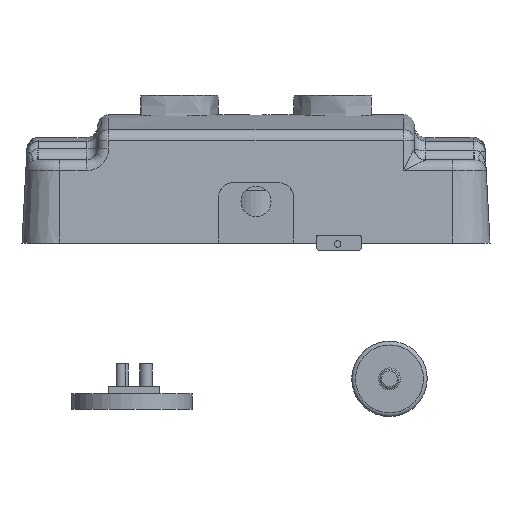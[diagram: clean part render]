
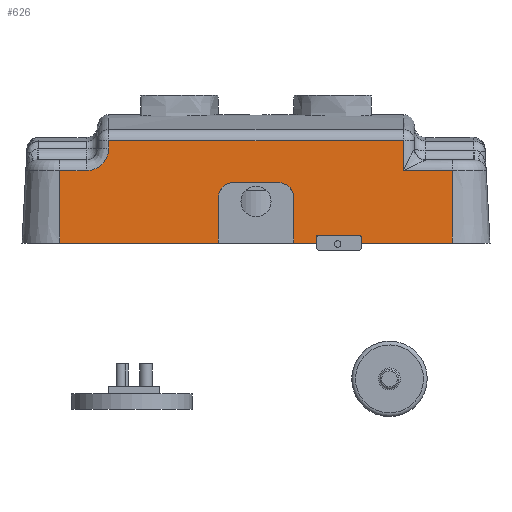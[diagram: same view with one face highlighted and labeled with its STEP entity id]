
A CAD part, front view. The second image highlights one B-rep face of the part: STEP entity #626.
In plain terms, the highlighted planar face has unit normal (0, -0.999, 0.052).
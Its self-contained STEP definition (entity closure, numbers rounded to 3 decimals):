
#308=ELLIPSE('',#5469,3.004,3.);
#309=ELLIPSE('',#5470,2.003,2.);
#310=ELLIPSE('',#5471,2.003,2.);
#311=ELLIPSE('',#5472,0.2,0.2);
#312=ELLIPSE('',#5473,0.2,0.2);
#626=ADVANCED_FACE('',(#1107),#939,.T.);
#939=PLANE('',#5474);
#1107=FACE_OUTER_BOUND('',#1384,.T.);
#1384=EDGE_LOOP('',(#2148,#2149,#2150,#2151,#2152,#2153,#2154,#2155,#2156,
#2157,#2158,#2159,#2160,#2161,#2162,#2163,#2164,#2165,#2166,#2167,#2168));
#2148=ORIENTED_EDGE('',*,*,#4005,.T.);
#2149=ORIENTED_EDGE('',*,*,#4006,.T.);
#2150=ORIENTED_EDGE('',*,*,#4007,.T.);
#2151=ORIENTED_EDGE('',*,*,#4008,.T.);
#2152=ORIENTED_EDGE('',*,*,#4009,.F.);
#2153=ORIENTED_EDGE('',*,*,#4010,.T.);
#2154=ORIENTED_EDGE('',*,*,#4011,.T.);
#2155=ORIENTED_EDGE('',*,*,#3884,.F.);
#2156=ORIENTED_EDGE('',*,*,#4012,.F.);
#2157=ORIENTED_EDGE('',*,*,#4013,.T.);
#2158=ORIENTED_EDGE('',*,*,#4014,.F.);
#2159=ORIENTED_EDGE('',*,*,#4015,.T.);
#2160=ORIENTED_EDGE('',*,*,#4016,.F.);
#2161=ORIENTED_EDGE('',*,*,#3880,.F.);
#2162=ORIENTED_EDGE('',*,*,#4017,.T.);
#2163=ORIENTED_EDGE('',*,*,#4018,.T.);
#2164=ORIENTED_EDGE('',*,*,#4019,.F.);
#2165=ORIENTED_EDGE('',*,*,#4020,.T.);
#2166=ORIENTED_EDGE('',*,*,#4021,.T.);
#2167=ORIENTED_EDGE('',*,*,#3896,.F.);
#2168=ORIENTED_EDGE('',*,*,#4022,.T.);
#3415=VERTEX_POINT('',#7562);
#3416=VERTEX_POINT('',#7564);
#3419=VERTEX_POINT('',#7570);
#3420=VERTEX_POINT('',#7572);
#3431=VERTEX_POINT('',#7594);
#3432=VERTEX_POINT('',#7596);
#3522=VERTEX_POINT('',#7814);
#3523=VERTEX_POINT('',#7815);
#3524=VERTEX_POINT('',#7817);
#3525=VERTEX_POINT('',#7819);
#3526=VERTEX_POINT('',#7821);
#3527=VERTEX_POINT('',#7823);
#3528=VERTEX_POINT('',#7825);
#3529=VERTEX_POINT('',#7828);
#3530=VERTEX_POINT('',#7830);
#3531=VERTEX_POINT('',#7832);
#3532=VERTEX_POINT('',#7834);
#3533=VERTEX_POINT('',#7837);
#3534=VERTEX_POINT('',#7839);
#3535=VERTEX_POINT('',#7841);
#3536=VERTEX_POINT('',#7843);
#3880=EDGE_CURVE('',#3415,#3416,#4582,.T.);
#3884=EDGE_CURVE('',#3419,#3420,#4586,.T.);
#3896=EDGE_CURVE('',#3431,#3432,#4594,.T.);
#4005=EDGE_CURVE('',#3522,#3523,#4666,.T.);
#4006=EDGE_CURVE('',#3523,#3524,#4667,.T.);
#4007=EDGE_CURVE('',#3524,#3525,#4668,.T.);
#4008=EDGE_CURVE('',#3525,#3526,#4669,.T.);
#4009=EDGE_CURVE('',#3527,#3526,#308,.T.);
#4010=EDGE_CURVE('',#3527,#3528,#4670,.T.);
#4011=EDGE_CURVE('',#3528,#3420,#4671,.T.);
#4012=EDGE_CURVE('',#3529,#3419,#4672,.T.);
#4013=EDGE_CURVE('',#3529,#3530,#309,.T.);
#4014=EDGE_CURVE('',#3531,#3530,#4673,.T.);
#4015=EDGE_CURVE('',#3531,#3532,#310,.T.);
#4016=EDGE_CURVE('',#3416,#3532,#4674,.T.);
#4017=EDGE_CURVE('',#3415,#3533,#4675,.T.);
#4018=EDGE_CURVE('',#3533,#3534,#311,.T.);
#4019=EDGE_CURVE('',#3535,#3534,#4676,.T.);
#4020=EDGE_CURVE('',#3535,#3536,#312,.T.);
#4021=EDGE_CURVE('',#3536,#3432,#4677,.T.);
#4022=EDGE_CURVE('',#3431,#3522,#4678,.T.);
#4582=LINE('',#7563,#4998);
#4586=LINE('',#7571,#5002);
#4594=LINE('',#7595,#5010);
#4666=LINE('',#7813,#5082);
#4667=LINE('',#7816,#5083);
#4668=LINE('',#7818,#5084);
#4669=LINE('',#7820,#5085);
#4670=LINE('',#7824,#5086);
#4671=LINE('',#7826,#5087);
#4672=LINE('',#7827,#5088);
#4673=LINE('',#7831,#5089);
#4674=LINE('',#7835,#5090);
#4675=LINE('',#7836,#5091);
#4676=LINE('',#7840,#5092);
#4677=LINE('',#7844,#5093);
#4678=LINE('',#7845,#5094);
#4998=VECTOR('',#5980,1.);
#5002=VECTOR('',#5984,1.);
#5010=VECTOR('',#6000,1.);
#5082=VECTOR('',#6184,1.);
#5083=VECTOR('',#6185,1.);
#5084=VECTOR('',#6186,1.);
#5085=VECTOR('',#6187,1.);
#5086=VECTOR('',#6190,1.);
#5087=VECTOR('',#6191,1.);
#5088=VECTOR('',#6192,1.);
#5089=VECTOR('',#6195,1.);
#5090=VECTOR('',#6198,1.);
#5091=VECTOR('',#6199,1.);
#5092=VECTOR('',#6202,1.);
#5093=VECTOR('',#6205,1.);
#5094=VECTOR('',#6206,1.);
#5469=AXIS2_PLACEMENT_3D('',#7822,#6188,#6189);
#5470=AXIS2_PLACEMENT_3D('',#7829,#6193,#6194);
#5471=AXIS2_PLACEMENT_3D('',#7833,#6196,#6197);
#5472=AXIS2_PLACEMENT_3D('',#7838,#6200,#6201);
#5473=AXIS2_PLACEMENT_3D('',#7842,#6203,#6204);
#5474=AXIS2_PLACEMENT_3D('',#7846,#6207,#6208);
#5980=DIRECTION('',(-1.,0.,0.));
#5984=DIRECTION('',(-1.,0.,0.));
#6000=DIRECTION('',(-1.,0.,0.));
#6184=DIRECTION('',(-1.,0.,0.));
#6185=DIRECTION('',(0.,0.052,0.999));
#6186=DIRECTION('',(-1.,0.,0.));
#6187=DIRECTION('',(0.,-0.052,-0.999));
#6188=DIRECTION('',(0.,-0.999,0.052));
#6189=DIRECTION('',(0.,-0.052,-0.999));
#6190=DIRECTION('',(-1.,0.,0.));
#6191=DIRECTION('',(0.,-0.052,-0.999));
#6192=DIRECTION('',(0.,-0.052,-0.999));
#6193=DIRECTION('',(0.,0.999,-0.052));
#6194=DIRECTION('',(0.,-0.052,-0.999));
#6195=DIRECTION('',(-1.,0.,0.));
#6196=DIRECTION('',(0.,0.999,-0.052));
#6197=DIRECTION('',(0.,-0.052,-0.999));
#6198=DIRECTION('',(0.,0.052,0.999));
#6199=DIRECTION('',(0.,0.052,0.999));
#6200=DIRECTION('',(0.,0.999,-0.052));
#6201=DIRECTION('',(0.,-0.052,-0.999));
#6202=DIRECTION('',(-1.,0.,0.));
#6203=DIRECTION('',(0.,0.999,-0.052));
#6204=DIRECTION('',(0.,0.052,0.999));
#6205=DIRECTION('',(0.,-0.052,-0.999));
#6206=DIRECTION('',(0.,0.052,0.999));
#6207=DIRECTION('',(0.,-0.999,0.052));
#6208=DIRECTION('',(0.,0.052,0.999));
#7562=CARTESIAN_POINT('',(8.,-33.,2.439));
#7563=CARTESIAN_POINT('',(31.,-33.,2.439));
#7564=CARTESIAN_POINT('',(5.,-33.,2.439));
#7570=CARTESIAN_POINT('',(-5.,-33.,2.439));
#7571=CARTESIAN_POINT('',(31.,-33.,2.439));
#7572=CARTESIAN_POINT('',(-26.,-33.,2.439));
#7594=CARTESIAN_POINT('',(26.,-33.,2.439));
#7595=CARTESIAN_POINT('',(31.,-33.,2.439));
#7596=CARTESIAN_POINT('',(14.,-33.,2.439));
#7813=CARTESIAN_POINT('',(21.,-32.498,12.018));
#7814=CARTESIAN_POINT('',(26.,-32.498,12.018));
#7815=CARTESIAN_POINT('',(19.5,-32.498,12.018));
#7816=CARTESIAN_POINT('',(19.5,-32.292,15.939));
#7817=CARTESIAN_POINT('',(19.5,-32.288,16.018));
#7818=CARTESIAN_POINT('',(0.,-32.288,16.018));
#7819=CARTESIAN_POINT('',(-19.5,-32.288,16.018));
#7820=CARTESIAN_POINT('',(-19.5,-33.,2.439));
#7821=CARTESIAN_POINT('',(-19.5,-32.341,15.018));
#7822=CARTESIAN_POINT('',(-22.5,-32.341,15.018));
#7823=CARTESIAN_POINT('',(-22.5,-32.498,12.018));
#7824=CARTESIAN_POINT('',(0.,-32.498,12.018));
#7825=CARTESIAN_POINT('',(-26.,-32.498,12.018));
#7826=CARTESIAN_POINT('',(-26.,-33.,2.439));
#7827=CARTESIAN_POINT('',(-5.,-33.,2.439));
#7828=CARTESIAN_POINT('',(-5.,-32.686,8.439));
#7829=CARTESIAN_POINT('',(-3.,-32.686,8.439));
#7830=CARTESIAN_POINT('',(-3.,-32.581,10.439));
#7831=CARTESIAN_POINT('',(0.,-32.581,10.439));
#7832=CARTESIAN_POINT('',(3.,-32.581,10.439));
#7833=CARTESIAN_POINT('',(3.,-32.686,8.439));
#7834=CARTESIAN_POINT('',(5.,-32.686,8.439));
#7835=CARTESIAN_POINT('',(5.,-33.,2.439));
#7836=CARTESIAN_POINT('',(8.,-33.,2.439));
#7837=CARTESIAN_POINT('',(8.,-32.958,3.239));
#7838=CARTESIAN_POINT('',(8.2,-32.958,3.239));
#7839=CARTESIAN_POINT('',(8.2,-32.948,3.439));
#7840=CARTESIAN_POINT('',(0.,-32.948,3.439));
#7841=CARTESIAN_POINT('',(13.8,-32.948,3.439));
#7842=CARTESIAN_POINT('',(13.8,-32.958,3.239));
#7843=CARTESIAN_POINT('',(14.,-32.958,3.239));
#7844=CARTESIAN_POINT('',(14.,-33.,2.439));
#7845=CARTESIAN_POINT('',(26.,-33.,2.439));
#7846=CARTESIAN_POINT('',(0.,-33.,2.439));
